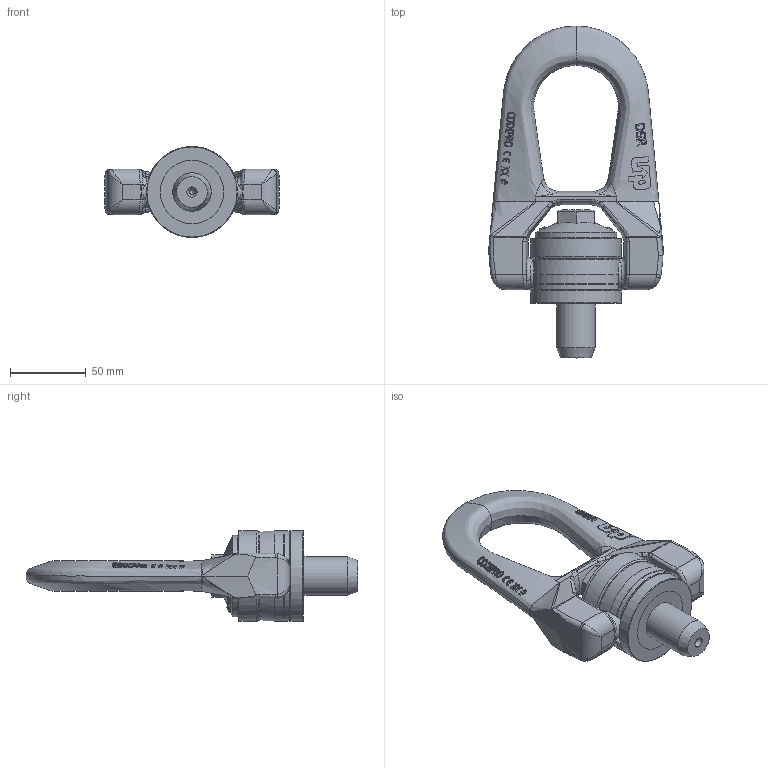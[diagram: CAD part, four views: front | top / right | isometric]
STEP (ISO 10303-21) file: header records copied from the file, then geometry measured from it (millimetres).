
FILE_DESCRIPTION(/* description */ (''),/* implementation_level */ '2;1');
FILE_NAME(/* name */ 'W:\CODIPRO\DOCUMENTS\Plans A NE PAS DIFFUSER !!!\Fichier STEP Modelisé\Gamme UP\Produits UP\DSR UP\DSR U100 UP.stp',/* time_stamp */ '2017-09-13T11:44:42+02:00',/* author */ ('rklenes'),/* organization */ (''),/* preprocessor_version */ 'ST-DEVELOPER v16.5',/* originating_system */ 'Autodesk Inventor 2017',/* authorisation */ '');
FILE_SCHEMA (('AUTOMOTIVE_DESIGN { 1 0 10303 214 3 1 1 }'));
Products named in the file (6): DSR U100 UP; DSR 3; DRB_B3B; DRM_AF3B_UP; DRE_D3U1A; DRA_U1X79
Assembly tree (5 placements, depth 3):
  DSR U100 UP
    DSR 3
      DRB_B3B
      DRM_AF3B_UP
    DRE_D3U1A
    DRA_U1X79
Bounding box: 115 x 219 x 60 mm (x, y, z)
Volume: 335929.2 mm3; surface area: 75076.7 mm2
Topology: 4 solids, 4 shells, 889 faces, 2350 edges, 1518 vertices
Faces by surface type: plane 413, bspline 326, cylinder 76, cone 58, torus 15, sphere 1
Full cylindrical faces by diameter (mm): 3.15 x1, 20 x2, 25.4 x4, 25.44 x1, 33.6 x2, 34 x2, 46 x1, 54 x1, 60 x2
Entity records: 48383 total; most frequent: CARTESIAN_POINT 28722, ORIENTED_EDGE 4596, DIRECTION 3110, EDGE_CURVE 2298, VERTEX_POINT 1512, AXIS2_PLACEMENT_3D 1114, EDGE_LOOP 990, FACE_OUTER_BOUND 889
